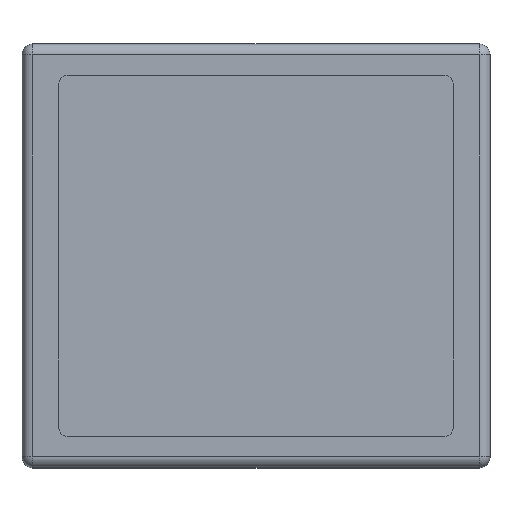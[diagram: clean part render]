
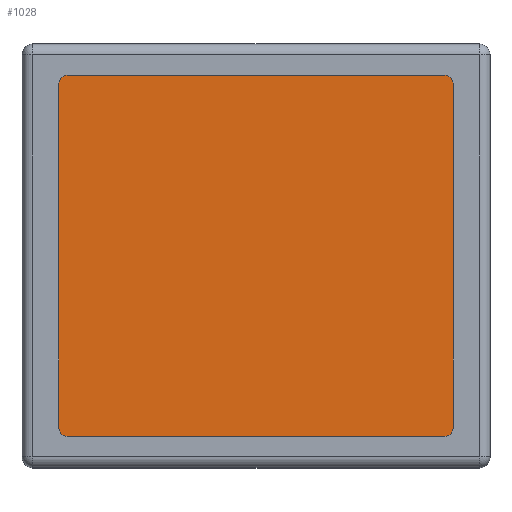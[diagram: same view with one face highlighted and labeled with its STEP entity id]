
A CAD part, top view. The second image highlights one B-rep face of the part: STEP entity #1028.
In plain terms, the highlighted planar face has unit normal (0, 0, 1).
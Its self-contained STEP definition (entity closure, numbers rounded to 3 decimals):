
#299=CARTESIAN_POINT('',(-11.5,10.5,16.8));
#300=DIRECTION('',(0.,0.,1.));
#301=DIRECTION('',(0.,1.,0.));
#302=AXIS2_PLACEMENT_3D('',#299,#300,#301);
#304=DIRECTION('',(-1.,0.,0.));
#305=VECTOR('',#304,23.);
#306=CARTESIAN_POINT('',(11.5,11.,16.8));
#307=LINE('',#306,#305);
#308=CARTESIAN_POINT('',(11.5,10.5,16.8));
#309=DIRECTION('',(0.,0.,1.));
#310=DIRECTION('',(1.,0.,0.));
#311=AXIS2_PLACEMENT_3D('',#308,#309,#310);
#313=DIRECTION('',(0.,1.,0.));
#314=VECTOR('',#313,21.);
#315=CARTESIAN_POINT('',(12.,-10.5,16.8));
#316=LINE('',#315,#314);
#317=CARTESIAN_POINT('',(11.5,-10.5,16.8));
#318=DIRECTION('',(0.,0.,1.));
#319=DIRECTION('',(0.,-1.,0.));
#320=AXIS2_PLACEMENT_3D('',#317,#318,#319);
#322=DIRECTION('',(1.,0.,0.));
#323=VECTOR('',#322,23.);
#324=CARTESIAN_POINT('',(-11.5,-11.,16.8));
#325=LINE('',#324,#323);
#326=CARTESIAN_POINT('',(-11.5,-10.5,16.8));
#327=DIRECTION('',(0.,0.,1.));
#328=DIRECTION('',(-1.,0.,0.));
#329=AXIS2_PLACEMENT_3D('',#326,#327,#328);
#331=DIRECTION('',(0.,-1.,0.));
#332=VECTOR('',#331,21.);
#333=CARTESIAN_POINT('',(-12.,10.5,16.8));
#334=LINE('',#333,#332);
#557=CARTESIAN_POINT('',(-11.5,11.,16.8));
#558=CARTESIAN_POINT('',(-12.,10.5,16.8));
#559=VERTEX_POINT('',#557);
#560=VERTEX_POINT('',#558);
#561=CARTESIAN_POINT('',(-12.,-10.5,16.8));
#562=VERTEX_POINT('',#561);
#563=CARTESIAN_POINT('',(-11.5,-11.,16.8));
#564=VERTEX_POINT('',#563);
#565=CARTESIAN_POINT('',(11.5,-11.,16.8));
#566=VERTEX_POINT('',#565);
#567=CARTESIAN_POINT('',(12.,-10.5,16.8));
#568=VERTEX_POINT('',#567);
#569=CARTESIAN_POINT('',(12.,10.5,16.8));
#570=VERTEX_POINT('',#569);
#571=CARTESIAN_POINT('',(11.5,11.,16.8));
#572=VERTEX_POINT('',#571);
#1013=CARTESIAN_POINT('',(0.,0.,16.8));
#1014=DIRECTION('',(0.,0.,1.));
#1015=DIRECTION('',(1.,0.,0.));
#1016=AXIS2_PLACEMENT_3D('',#1013,#1014,#1015);
#1017=PLANE('',#1016);
#1018=ORIENTED_EDGE('',*,*,#909,.F.);
#1019=ORIENTED_EDGE('',*,*,#924,.F.);
#1020=ORIENTED_EDGE('',*,*,#938,.F.);
#1021=ORIENTED_EDGE('',*,*,#952,.F.);
#1022=ORIENTED_EDGE('',*,*,#966,.F.);
#1023=ORIENTED_EDGE('',*,*,#980,.F.);
#1024=ORIENTED_EDGE('',*,*,#994,.F.);
#1025=ORIENTED_EDGE('',*,*,#1007,.F.);
#1026=EDGE_LOOP('',(#1018,#1019,#1020,#1021,#1022,#1023,#1024,#1025));
#1027=FACE_OUTER_BOUND('',#1026,.F.);
#303=CIRCLE('',#302,0.5);
#312=CIRCLE('',#311,0.5);
#321=CIRCLE('',#320,0.5);
#330=CIRCLE('',#329,0.5);
#909=EDGE_CURVE('',#559,#560,#303,.T.);
#924=EDGE_CURVE('',#572,#559,#307,.T.);
#938=EDGE_CURVE('',#570,#572,#312,.T.);
#952=EDGE_CURVE('',#568,#570,#316,.T.);
#966=EDGE_CURVE('',#566,#568,#321,.T.);
#980=EDGE_CURVE('',#564,#566,#325,.T.);
#994=EDGE_CURVE('',#562,#564,#330,.T.);
#1007=EDGE_CURVE('',#560,#562,#334,.T.);
#1028=ADVANCED_FACE('',(#1027),#1017,.T.);
